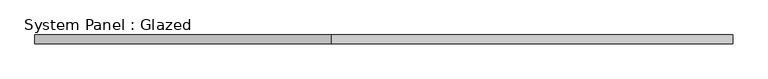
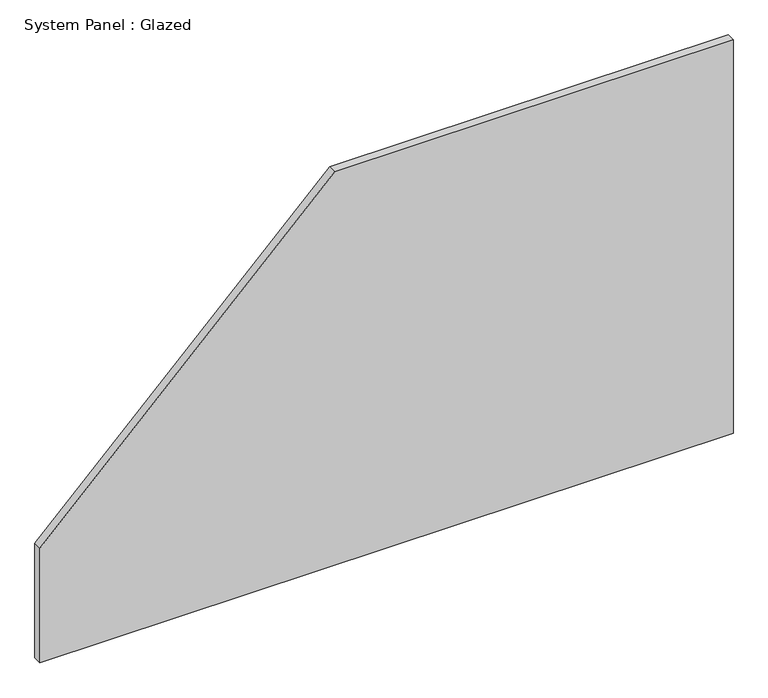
"""IFC4 building model written with IfcOpenShell, lengths in millimetres: plate geometry, System Panel : Glazed."""

from ifc_helpers import new_model, si_unit, frame, origin, place, context, project, spatial, polyline, outline, extrude, source, transform, mapped, element, save


def system_panel_glazed_a9088b02(model_context):
    return source(origin(), model_context, "Body", "SweptSolid", [
        extrude(outline(polyline([(0.0, -1000.0), (0.0, 1000.0), (1200.0, 1000.0), (1200.0, -150.0), (350.0, -1000.0), (0.0, -1000.0)])), frame((0.0, -49.5, 0.0), z_axis=(0.0, 1.0, 0.0), x_axis=(0.0, 0.0, 1.0)), (0.0, 0.0, 1.0), 25.0),
    ])


if __name__ == "__main__":
    model = new_model("IFC4")
    model_context = context("Model", 3, world=origin())
    ifc_project = project(units=[si_unit("LENGTHUNIT", "METRE", prefix="MILLI")], contexts=[model_context])
    site = spatial("IfcSite", under=ifc_project)
    building = spatial("IfcBuilding", under=site)
    placement = place(None, origin())
    system_panel_glazed_shape = system_panel_glazed_a9088b02(model_context)
    element("IfcPlate", 1, ObjectType="System Panel : Glazed", at=placement, inside=building, context=model_context, shape_type="MappedRepresentation", body=[
        mapped(system_panel_glazed_shape, transform((0.0, 0.0, 0.0), x_axis=(1.0, 0.0, 0.0), y_axis=(0.0, 1.0, 0.0), z_axis=(0.0, 0.0, 1.0))),
    ])
    save(model, "model.ifc")
